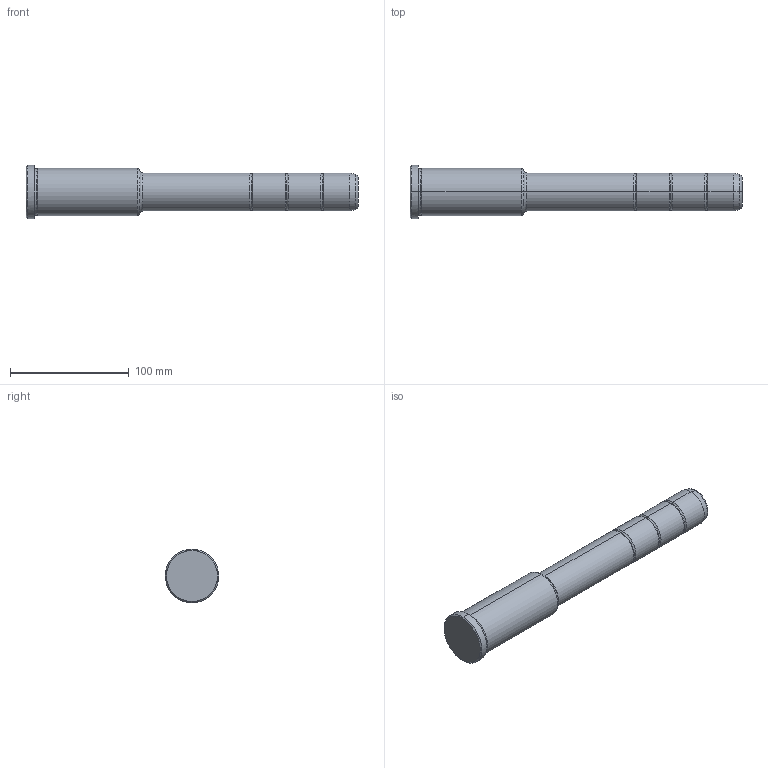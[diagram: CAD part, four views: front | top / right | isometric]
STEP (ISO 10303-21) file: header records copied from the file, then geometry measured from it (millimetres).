
FILE_DESCRIPTION(('CATIA V5 STEP Exchange'),'2;1');
FILE_NAME('C:\Users\Utente\Desktop\IO LAVORO\3D X SITO CF\X SITO\PLASTICA\351\351-32X96X280.stp','2021-09-10T12:17:41+00:00',('none'),('none'),'CATIA Version 5 Release 20 GA (IN-10)','CATIA V5 STEP AP203','none');
FILE_SCHEMA(('CONFIG_CONTROL_DESIGN'));
Length unit declared in the file: millimetre
Products named in the file (1): 351-32X96X280
Bounding box: 280 x 45 x 45 mm (x, y, z)
Volume: 269608.1 mm3; surface area: 33476.8 mm2
Topology: 1 solids, 1 shells, 42 faces, 118 edges, 80 vertices
Faces by surface type: torus 20, cylinder 12, cone 6, plane 4
Entity records: 1472 total; most frequent: CARTESIAN_POINT 353, ORIENTED_EDGE 236, DIRECTION 194, AXIS2_PLACEMENT_3D 135, EDGE_CURVE 118, CIRCLE 92, VERTEX_POINT 80, EDGE_LOOP 44
